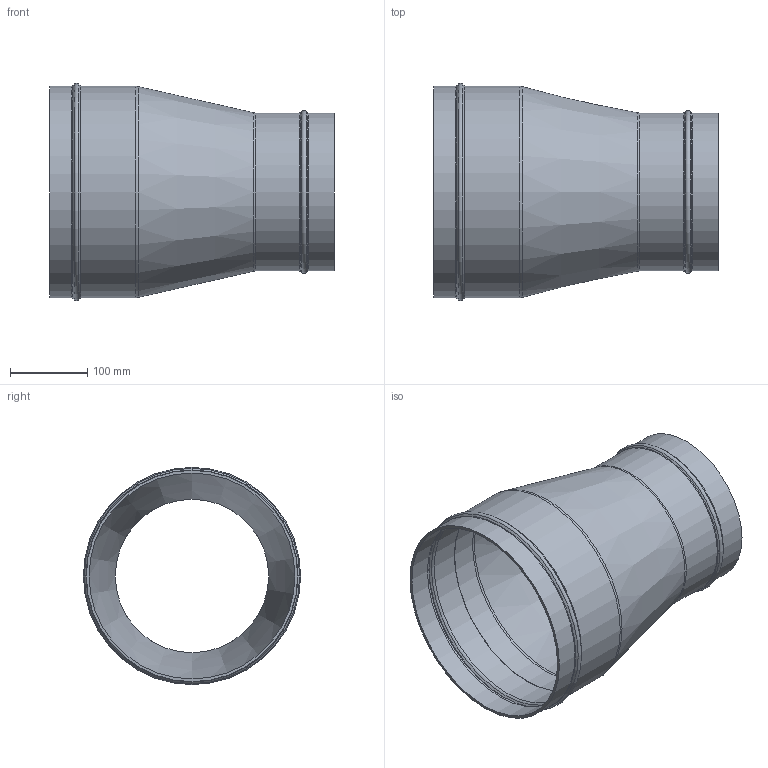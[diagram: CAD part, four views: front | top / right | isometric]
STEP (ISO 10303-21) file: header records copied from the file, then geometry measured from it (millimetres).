
FILE_DESCRIPTION(/* description */ (''),/* implementation_level */ '2;1');
FILE_NAME(/* name */ '30221121101.stp',/* time_stamp */ '2024-01-29T10:44:23+08:00',/* author */ (''),/* organization */ (''),/* preprocessor_version */ 'ST-DEVELOPER v11',/* originating_system */ 'SIEMENS PLM Software NX 7.5',/* authorisation */ '');
FILE_SCHEMA (('CONFIG_CONTROL_DESIGN'));
Length unit declared in the file: millimetre
Products named in the file (1): Admi5E3402lk
Bounding box: 368 x 280.58 x 280.58 mm (x, y, z)
Volume: 874285.4 mm3; surface area: 565316.8 mm2
Topology: 1 solids, 1 shells, 38 faces, 73 edges, 38 vertices
Faces by surface type: torus 16, cone 10, cylinder 9, plane 3
Full cylindrical faces by diameter (mm): 198 x2, 204 x2, 266 x2, 267 x1, 273 x2
Entity records: 854 total; most frequent: DIRECTION 154, CARTESIAN_POINT 115, AXIS2_PLACEMENT_3D 77, FACE_BOUND 76, EDGE_LOOP 76, ORIENTED_EDGE 76, ADVANCED_FACE 38, VERTEX_POINT 38
